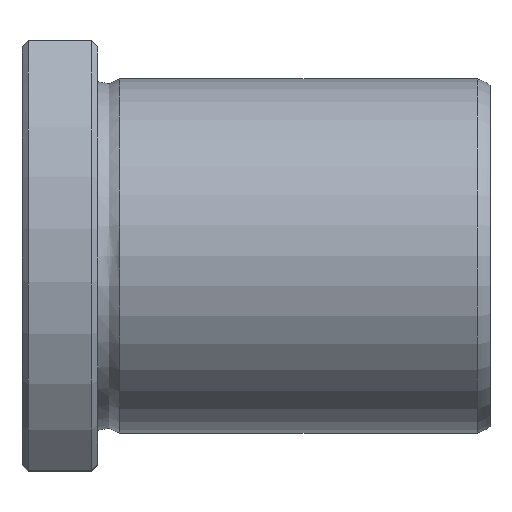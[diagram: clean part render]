
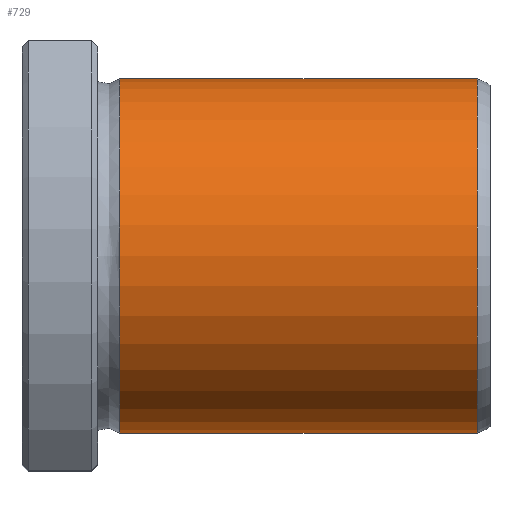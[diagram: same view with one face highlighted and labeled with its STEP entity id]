
A CAD part, top view. The second image highlights one B-rep face of the part: STEP entity #729.
In plain terms, the highlighted cylindrical face has radius 14 mm (diameter 28 mm), a full revolution.
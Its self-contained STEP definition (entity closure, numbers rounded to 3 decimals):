
#695=CARTESIAN_POINT('',(35.999,0.0,14.));
#696=VERTEX_POINT('',#695);
#697=CARTESIAN_POINT('',(35.999,0.0,0.0));
#698=DIRECTION('',(-1.0,0.0,0.0));
#699=DIRECTION('',(0.0,0.0,1.0));
#700=AXIS2_PLACEMENT_3D('',#697,#698,#699);
#701=CIRCLE('',#700,14.);
#702=EDGE_CURVE('',#696,#696,#701,.T.);
#710=CARTESIAN_POINT('',(21.859,0.0,0.0));
#711=DIRECTION('',(-1.0,0.0,0.0));
#712=DIRECTION('',(0.0,0.0,1.0));
#713=AXIS2_PLACEMENT_3D('',#710,#711,#712);
#714=CYLINDRICAL_SURFACE('',#713,14.);
#715=CARTESIAN_POINT('',(7.72,0.0,14.));
#716=VERTEX_POINT('',#715);
#717=CARTESIAN_POINT('',(7.72,0.0,0.0));
#718=DIRECTION('',(-1.0,0.0,0.0));
#719=DIRECTION('',(0.0,0.0,1.0));
#720=AXIS2_PLACEMENT_3D('',#717,#718,#719);
#721=CIRCLE('',#720,14.);
#722=EDGE_CURVE('',#716,#716,#721,.T.);
#723=ORIENTED_EDGE('',*,*,#722,.F.);
#724=EDGE_LOOP('',(#723));
#725=FACE_OUTER_BOUND('',#724,.T.);
#726=ORIENTED_EDGE('',*,*,#702,.T.);
#727=EDGE_LOOP('',(#726));
#728=FACE_BOUND('',#727,.T.);
#729=ADVANCED_FACE('',(#725,#728),#714,.T.);
